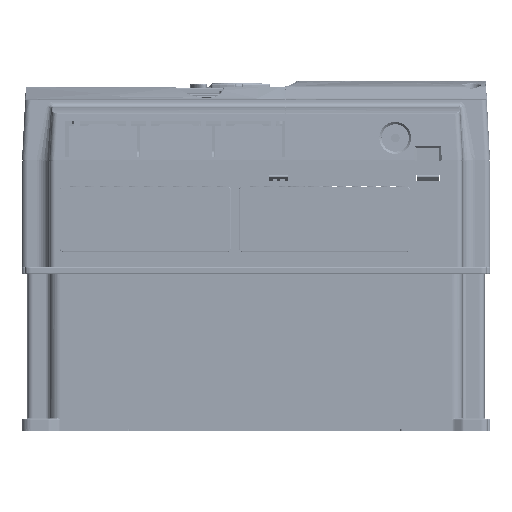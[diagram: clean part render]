
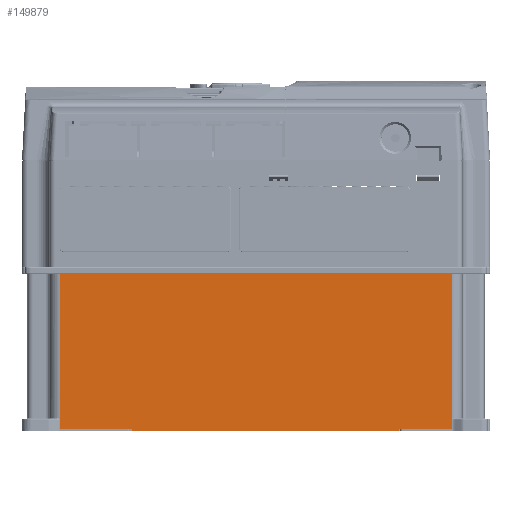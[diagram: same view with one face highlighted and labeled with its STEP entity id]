
A CAD part, left-side view. The second image highlights one B-rep face of the part: STEP entity #149879.
In plain terms, the highlighted planar face has unit normal (-1, 0, 0) as drawn and (1, 0, 0) by its records, which use the part's own axes.
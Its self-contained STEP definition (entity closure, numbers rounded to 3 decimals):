
#119809=DIRECTION('',(0.,0.,-1.));
#119810=VECTOR('',#119809,146.);
#119811=CARTESIAN_POINT('',(70.,-80.,68.));
#119812=LINE('',#119811,#119810);
#121056=CARTESIAN_POINT('',(70.,-73.,108.657));
#121058=DIRECTION('',(-0.001,0.,-1.));
#121059=VECTOR('',#121058,1.493);
#121060=CARTESIAN_POINT('',(70.,-73.,108.657));
#121061=LINE('',#121060,#121059);
#121069=DIRECTION('',(-0.001,0.,1.));
#121070=VECTOR('',#121069,1.493);
#121071=CARTESIAN_POINT('',(70.,-73.,-108.657));
#121072=LINE('',#121071,#121070);
#126154=DIRECTION('',(0.,0.,-1.));
#126155=VECTOR('',#126154,39.169);
#126156=CARTESIAN_POINT('',(70.,-78.5,107.169));
#126157=LINE('',#126156,#126155);
#126158=DIRECTION('',(0.,1.,0.));
#126159=VECTOR('',#126158,5.);
#126160=CARTESIAN_POINT('',(70.,-78.5,107.169));
#126161=LINE('',#126160,#126159);
#126162=CARTESIAN_POINT('',(70.,-73.405,
107.403));
#126163=CARTESIAN_POINT('',(70.,-73.373,
107.481));
#126164=CARTESIAN_POINT('',(70.,-73.298,
107.663));
#126165=CARTESIAN_POINT('',(70.,-73.201,
107.913));
#126166=CARTESIAN_POINT('',(70.,-73.116,
108.162));
#126167=CARTESIAN_POINT('',(70.,-73.046,
108.408));
#126168=CARTESIAN_POINT('',(70.,-73.013,108.574));
#126169=CARTESIAN_POINT('',(70.,-73.,108.657));
#126171=DIRECTION('',(0.,-1.,0.));
#126172=VECTOR('',#126171,79.);
#126173=CARTESIAN_POINT('',(70.,6.,107.));
#126174=LINE('',#126173,#126172);
#126175=DIRECTION('',(0.,0.,-1.));
#126176=VECTOR('',#126175,214.);
#126177=CARTESIAN_POINT('',(70.,6.,107.));
#126178=LINE('',#126177,#126176);
#126179=DIRECTION('',(0.,1.,0.));
#126180=VECTOR('',#126179,79.);
#126181=CARTESIAN_POINT('',(70.,-73.,-107.));
#126182=LINE('',#126181,#126180);
#126183=CARTESIAN_POINT('',(70.,-73.408,
-107.395));
#126184=CARTESIAN_POINT('',(70.,-73.366,
-107.478));
#126185=CARTESIAN_POINT('',(70.,-73.303,
-107.663));
#126186=CARTESIAN_POINT('',(70.,-73.183,
-107.953));
#126187=CARTESIAN_POINT('',(70.,-73.078,
-108.281));
#126188=CARTESIAN_POINT('',(70.,-73.02,-108.527));
#126189=CARTESIAN_POINT('',(70.,-73.,-108.657));
#126191=DIRECTION('',(0.,-1.,0.));
#126192=VECTOR('',#126191,5.);
#126193=CARTESIAN_POINT('',(70.,-73.5,-107.169));
#126194=LINE('',#126193,#126192);
#126195=DIRECTION('',(0.,0.,-1.));
#126196=VECTOR('',#126195,29.169);
#126197=CARTESIAN_POINT('',(70.,-78.5,-78.));
#126198=LINE('',#126197,#126196);
#126199=DIRECTION('',(0.,1.,0.));
#126200=VECTOR('',#126199,1.5);
#126201=CARTESIAN_POINT('',(70.,-80.,-78.));
#126202=LINE('',#126201,#126200);
#126203=DIRECTION('',(0.,1.,0.));
#126204=VECTOR('',#126203,1.5);
#126205=CARTESIAN_POINT('',(70.,-80.,68.));
#126206=LINE('',#126205,#126204);
#135376=CARTESIAN_POINT('',(70.,-73.,107.));
#135377=CARTESIAN_POINT('',(70.,-73.,107.028));
#135378=CARTESIAN_POINT('',(70.001,-73.,107.087));
#135379=CARTESIAN_POINT('',(69.999,-73.,107.136));
#135380=CARTESIAN_POINT('',(69.999,-73.,107.164));
#135413=CARTESIAN_POINT('',(70.,-73.405,
107.403));
#135425=CARTESIAN_POINT('',(70.,-73.405,
107.403));
#135426=CARTESIAN_POINT('',(70.,-73.422,
107.36));
#135427=CARTESIAN_POINT('',(70.,-73.447,
107.298));
#135428=CARTESIAN_POINT('',(70.,-73.484,107.209));
#135429=CARTESIAN_POINT('',(70.,-73.5,107.169));
#135525=CARTESIAN_POINT('',(69.999,-73.,-107.164));
#135526=CARTESIAN_POINT('',(69.999,-73.,-107.136));
#135527=CARTESIAN_POINT('',(70.001,-73.,-107.087));
#135528=CARTESIAN_POINT('',(70.,-73.,-107.028));
#135529=CARTESIAN_POINT('',(70.,-73.,-107.));
#135737=CARTESIAN_POINT('',(70.,-73.408,
-107.395));
#135744=CARTESIAN_POINT('',(70.,-73.5,-107.169));
#135745=CARTESIAN_POINT('',(70.,-73.484,-107.207));
#135746=CARTESIAN_POINT('',(70.,-73.453,
-107.283));
#135747=CARTESIAN_POINT('',(70.,-73.423,
-107.358));
#135748=CARTESIAN_POINT('',(70.,-73.408,
-107.395));
#138202=CARTESIAN_POINT('',(70.,-80.,68.));
#138204=VERTEX_POINT('',#138202);
#138218=CARTESIAN_POINT('',(70.,-80.,-78.));
#138220=VERTEX_POINT('',#138218);
#138229=CARTESIAN_POINT('',(70.,-78.5,107.169));
#138230=CARTESIAN_POINT('',(70.,-78.5,68.));
#138231=VERTEX_POINT('',#138229);
#138232=VERTEX_POINT('',#138230);
#138233=CARTESIAN_POINT('',(70.,-78.5,-78.));
#138234=CARTESIAN_POINT('',(70.,-78.5,-107.169));
#138235=VERTEX_POINT('',#138233);
#138236=VERTEX_POINT('',#138234);
#138641=CARTESIAN_POINT('',(70.,6.,107.));
#138642=CARTESIAN_POINT('',(70.,-73.,107.));
#138643=VERTEX_POINT('',#138641);
#138644=VERTEX_POINT('',#138642);
#138645=CARTESIAN_POINT('',(70.,-73.,-107.));
#138646=CARTESIAN_POINT('',(70.,6.,-107.));
#138647=VERTEX_POINT('',#138645);
#138648=VERTEX_POINT('',#138646);
#138726=CARTESIAN_POINT('',(70.,-73.5,-107.169));
#138728=VERTEX_POINT('',#138726);
#138851=CARTESIAN_POINT('',(70.,-73.5,107.169));
#138852=VERTEX_POINT('',#138851);
#138855=VERTEX_POINT('',#135380);
#138856=VERTEX_POINT('',#135525);
#138923=VERTEX_POINT('',#121056);
#138924=VERTEX_POINT('',#135413);
#138926=VERTEX_POINT('',#135737);
#138927=VERTEX_POINT('',#126189);
#149844=CARTESIAN_POINT('',(70.,-80.,125.));
#149845=DIRECTION('',(1.,0.,0.));
#149846=DIRECTION('',(0.,0.,-1.));
#149847=AXIS2_PLACEMENT_3D('',#149844,#149845,#149846);
#149848=PLANE('',#149847);
#149849=ORIENTED_EDGE('',*,*,#142589,.F.);
#149851=ORIENTED_EDGE('',*,*,#149850,.T.);
#149853=ORIENTED_EDGE('',*,*,#149852,.F.);
#149855=ORIENTED_EDGE('',*,*,#149854,.T.);
#149856=ORIENTED_EDGE('',*,*,#144011,.T.);
#149858=ORIENTED_EDGE('',*,*,#149857,.F.);
#149860=ORIENTED_EDGE('',*,*,#149859,.F.);
#149861=ORIENTED_EDGE('',*,*,#144322,.T.);
#149863=ORIENTED_EDGE('',*,*,#149862,.F.);
#149865=ORIENTED_EDGE('',*,*,#149864,.F.);
#149866=ORIENTED_EDGE('',*,*,#144023,.F.);
#149868=ORIENTED_EDGE('',*,*,#149867,.F.);
#149870=ORIENTED_EDGE('',*,*,#149869,.F.);
#149871=ORIENTED_EDGE('',*,*,#149836,.T.);
#149872=ORIENTED_EDGE('',*,*,#142368,.F.);
#149874=ORIENTED_EDGE('',*,*,#149873,.F.);
#149875=ORIENTED_EDGE('',*,*,#142138,.F.);
#149876=ORIENTED_EDGE('',*,*,#142290,.T.);
#149877=EDGE_LOOP('',(#149849,#149851,#149853,#149855,#149856,#149858,#149860,
#149861,#149863,#149865,#149866,#149868,#149870,#149871,#149872,#149874,#149875,
#149876));
#149878=FACE_OUTER_BOUND('',#149877,.F.);
#126170=B_SPLINE_CURVE_WITH_KNOTS('',3,(#126162,#126163,#126164,#126165,#126166,
#126167,#126168,#126169),.UNSPECIFIED.,.F.,.F.,(4,1,1,1,1,4),(0.,0.2,0.4,
0.6,0.8,1.),.UNSPECIFIED.);
#126190=B_SPLINE_CURVE_WITH_KNOTS('',3,(#126183,#126184,#126185,#126186,#126187,
#126188,#126189),.UNSPECIFIED.,.F.,.F.,(4,1,1,1,4),(0.,0.25,0.5,0.75,
1.),.UNSPECIFIED.);
#135381=B_SPLINE_CURVE_WITH_KNOTS('',3,(#135376,#135377,#135378,#135379,
#135380),.UNSPECIFIED.,.F.,.F.,(4,1,4),(0.,0.5,1.),.UNSPECIFIED.);
#135430=B_SPLINE_CURVE_WITH_KNOTS('',3,(#135425,#135426,#135427,#135428,
#135429),.UNSPECIFIED.,.F.,.F.,(4,1,4),(0.,0.5,1.),.UNSPECIFIED.);
#135530=B_SPLINE_CURVE_WITH_KNOTS('',3,(#135525,#135526,#135527,#135528,
#135529),.UNSPECIFIED.,.F.,.F.,(4,1,4),(0.,0.5,1.),.UNSPECIFIED.);
#135749=B_SPLINE_CURVE_WITH_KNOTS('',3,(#135744,#135745,#135746,#135747,
#135748),.UNSPECIFIED.,.F.,.F.,(4,1,4),(0.,0.5,1.),.UNSPECIFIED.);
#142138=EDGE_CURVE('',#138204,#138220,#119812,.T.);
#142290=EDGE_CURVE('',#138204,#138232,#126206,.T.);
#142368=EDGE_CURVE('',#138235,#138236,#126198,.T.);
#142589=EDGE_CURVE('',#138231,#138232,#126157,.T.);
#144011=EDGE_CURVE('',#138923,#138855,#121061,.T.);
#144023=EDGE_CURVE('',#138927,#138856,#121072,.T.);
#144322=EDGE_CURVE('',#138643,#138648,#126178,.T.);
#149836=EDGE_CURVE('',#138728,#138236,#126194,.T.);
#149850=EDGE_CURVE('',#138231,#138852,#126161,.T.);
#149852=EDGE_CURVE('',#138924,#138852,#135430,.T.);
#149854=EDGE_CURVE('',#138924,#138923,#126170,.T.);
#149857=EDGE_CURVE('',#138644,#138855,#135381,.T.);
#149859=EDGE_CURVE('',#138643,#138644,#126174,.T.);
#149862=EDGE_CURVE('',#138647,#138648,#126182,.T.);
#149864=EDGE_CURVE('',#138856,#138647,#135530,.T.);
#149867=EDGE_CURVE('',#138926,#138927,#126190,.T.);
#149869=EDGE_CURVE('',#138728,#138926,#135749,.T.);
#149873=EDGE_CURVE('',#138220,#138235,#126202,.T.);
#149879=ADVANCED_FACE('',(#149878),#149848,.T.);
